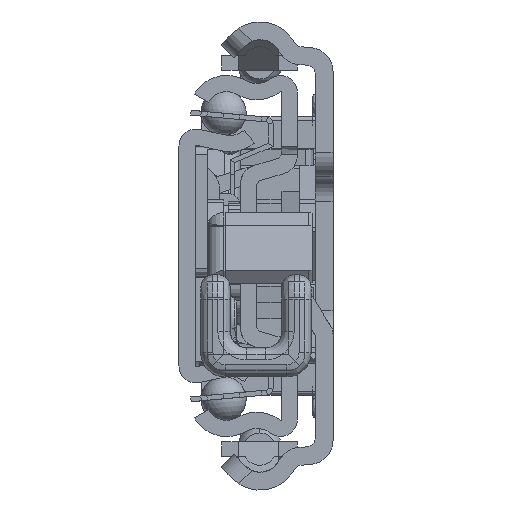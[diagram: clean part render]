
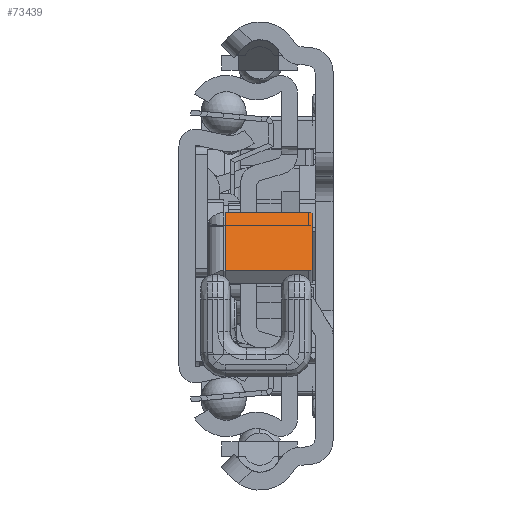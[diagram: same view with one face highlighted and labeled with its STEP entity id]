
A CAD part, left-side view. The second image highlights one B-rep face of the part: STEP entity #73439.
In plain terms, the highlighted planar face has unit normal (-0.597, 0, 0.802) as drawn and (-0.597, -0.802, 0) by its records, which use the part's own axes.
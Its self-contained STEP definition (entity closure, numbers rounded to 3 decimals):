
#72827=DIRECTION('',(0.802,-0.597,0.));
#72828=VECTOR('',#72827,12.);
#72829=CARTESIAN_POINT('',(31.957,-10.314,-0.2));
#72830=LINE('',#72829,#72828);
#72855=DIRECTION('',(0.,0.,1.));
#72856=VECTOR('',#72855,10.3);
#72857=CARTESIAN_POINT('',(41.586,-17.476,-10.5));
#72858=LINE('',#72857,#72856);
#72859=CARTESIAN_POINT('',(41.184,-17.178,-10.5));
#72860=DIRECTION('',(-0.597,-0.802,0.));
#72861=DIRECTION('',(0.,0.,-1.));
#72862=AXIS2_PLACEMENT_3D('',#72859,#72860,#72861);
#72864=DIRECTION('',(0.802,-0.597,0.));
#72865=VECTOR('',#72864,11.);
#72866=CARTESIAN_POINT('',(32.358,-10.613,-11.));
#72867=LINE('',#72866,#72865);
#72868=CARTESIAN_POINT('',(32.358,-10.613,-10.5));
#72869=DIRECTION('',(-0.597,-0.802,0.));
#72870=DIRECTION('',(-0.802,0.597,0.));
#72871=AXIS2_PLACEMENT_3D('',#72868,#72869,#72870);
#72873=DIRECTION('',(0.,0.,-1.));
#72874=VECTOR('',#72873,10.3);
#72875=CARTESIAN_POINT('',(31.957,-10.314,-0.2));
#72876=LINE('',#72875,#72874);
#73093=CARTESIAN_POINT('',(31.957,-10.314,-0.2));
#73094=CARTESIAN_POINT('',(41.586,-17.476,-0.2));
#73095=VERTEX_POINT('',#73093);
#73096=VERTEX_POINT('',#73094);
#73125=CARTESIAN_POINT('',(41.586,-17.476,-10.5));
#73126=VERTEX_POINT('',#73125);
#73127=CARTESIAN_POINT('',(32.358,-10.613,-11.));
#73128=CARTESIAN_POINT('',(41.184,-17.178,-11.));
#73129=VERTEX_POINT('',#73127);
#73130=VERTEX_POINT('',#73128);
#73131=CARTESIAN_POINT('',(31.957,-10.314,-10.5));
#73132=VERTEX_POINT('',#73131);
#73421=CARTESIAN_POINT('',(34.726,-12.374,2.));
#73422=DIRECTION('',(0.597,0.802,0.));
#73423=DIRECTION('',(0.802,-0.597,0.));
#73424=AXIS2_PLACEMENT_3D('',#73421,#73422,#73423);
#73425=PLANE('',#73424);
#73427=ORIENTED_EDGE('',*,*,#73426,.F.);
#73429=ORIENTED_EDGE('',*,*,#73428,.F.);
#73431=ORIENTED_EDGE('',*,*,#73430,.F.);
#73433=ORIENTED_EDGE('',*,*,#73432,.F.);
#73435=ORIENTED_EDGE('',*,*,#73434,.F.);
#73436=ORIENTED_EDGE('',*,*,#73408,.T.);
#73437=EDGE_LOOP('',(#73427,#73429,#73431,#73433,#73435,#73436));
#73438=FACE_OUTER_BOUND('',#73437,.F.);
#72863=CIRCLE('',#72862,0.5);
#72872=CIRCLE('',#72871,0.5);
#73408=EDGE_CURVE('',#73095,#73096,#72830,.T.);
#73426=EDGE_CURVE('',#73126,#73096,#72858,.T.);
#73428=EDGE_CURVE('',#73130,#73126,#72863,.T.);
#73430=EDGE_CURVE('',#73129,#73130,#72867,.T.);
#73432=EDGE_CURVE('',#73132,#73129,#72872,.T.);
#73434=EDGE_CURVE('',#73095,#73132,#72876,.T.);
#73439=ADVANCED_FACE('',(#73438),#73425,.F.);
